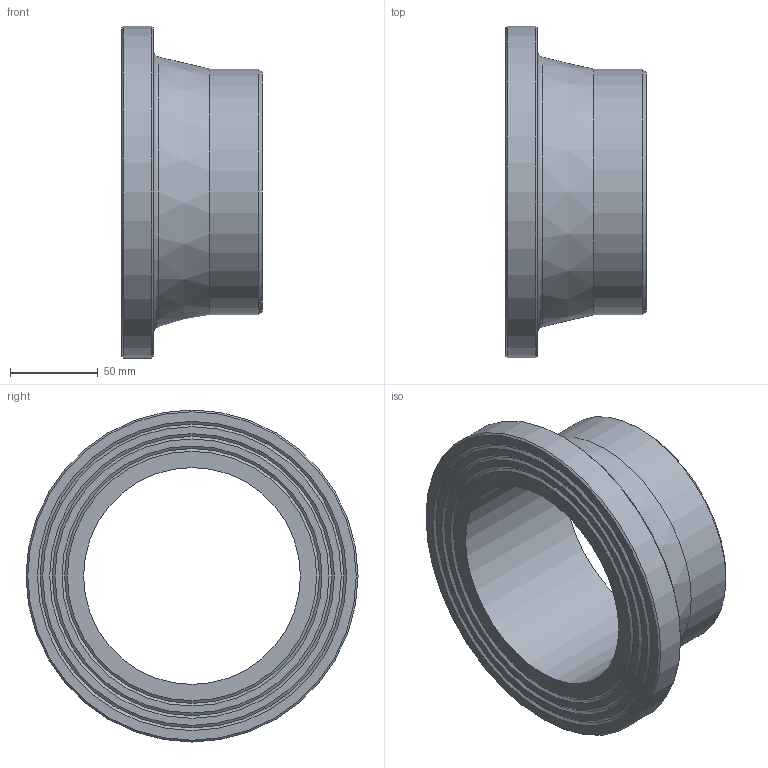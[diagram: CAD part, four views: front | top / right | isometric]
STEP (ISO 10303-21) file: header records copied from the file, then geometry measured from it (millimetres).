
FILE_DESCRIPTION(/* description */ ('Unknown'),/* implementation_level */ '2;1');
FILE_NAME(/* name */ 'CCP140B',/* time_stamp */ '2022-04-04T16:13:00+02:00',/* author */ ('Unknown'),/* organization */ ('Unknown'),/* preprocessor_version */ 'ST-DEVELOPER v18.1',/* originating_system */ 'Solid Edge',/* authorisation */ 'Unknown');
FILE_SCHEMA (('AUTOMOTIVE_DESIGN {1 0 10303 214 3 1 1}'));
Length unit declared in the file: millimetre
Products named in the file (1): CCP140B
Bounding box: 80 x 189 x 189 mm (x, y, z)
Volume: 554322.4 mm3; surface area: 98230.4 mm2
Topology: 1 solids, 1 shells, 20 faces, 35 edges, 21 vertices
Faces by surface type: cone 10, plane 6, cylinder 3, torus 1
Full cylindrical faces by diameter (mm): 123.4 x1, 140 x1, 189 x1
Entity records: 438 total; most frequent: DIRECTION 82, CARTESIAN_POINT 61, AXIS2_PLACEMENT_3D 41, ORIENTED_EDGE 40, EDGE_LOOP 40, FACE_BOUND 40, EDGE_CURVE 20, VERTEX_POINT 20
